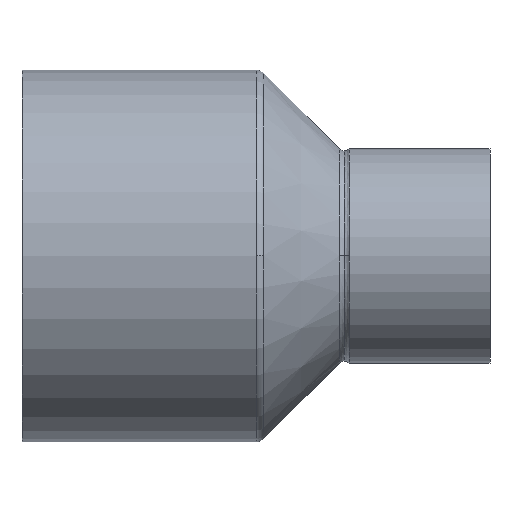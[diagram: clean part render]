
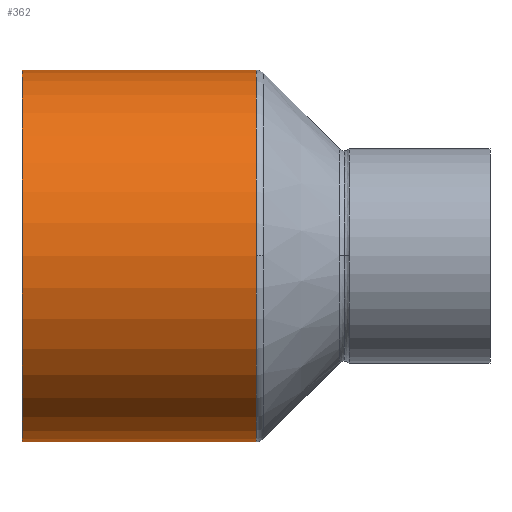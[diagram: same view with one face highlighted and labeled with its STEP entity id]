
A CAD part, top view. The second image highlights one B-rep face of the part: STEP entity #362.
In plain terms, the highlighted cylindrical face has radius 27 mm (diameter 54 mm), a partial arc.
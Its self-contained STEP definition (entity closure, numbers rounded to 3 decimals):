
#312=CARTESIAN_POINT('',(17.021,0.0,0.0));
#313=DIRECTION('',(1.0,0.0,0.0));
#314=DIRECTION('',(0.0,1.0,0.0));
#315=AXIS2_PLACEMENT_3D('',#312,#313,#314);
#316=CYLINDRICAL_SURFACE('',#315,27.0);
#317=CARTESIAN_POINT('',(0.,27.0,0.0));
#318=VERTEX_POINT('',#317);
#319=CARTESIAN_POINT('',(34.042,27.0,0.0));
#320=VERTEX_POINT('',#319);
#321=CARTESIAN_POINT('',(0.,27.0,0.0));
#322=DIRECTION('',(1.0,0.0,0.0));
#323=VECTOR('',#322,34.042);
#324=LINE('',#321,#323);
#325=EDGE_CURVE('',#318,#320,#324,.T.);
#326=ORIENTED_EDGE('',*,*,#325,.F.);
#327=CARTESIAN_POINT('',(0.,-27.0,0.));
#328=VERTEX_POINT('',#327);
#329=CARTESIAN_POINT('',(0.,0.0,0.0));
#330=DIRECTION('',(1.0,0.0,0.0));
#331=DIRECTION('',(0.0,1.0,0.0));
#332=AXIS2_PLACEMENT_3D('',#329,#330,#331);
#333=CIRCLE('',#332,27.0);
#334=EDGE_CURVE('',#318,#328,#333,.T.);
#335=ORIENTED_EDGE('',*,*,#334,.T.);
#336=CARTESIAN_POINT('',(34.042,-27.0,0.));
#337=VERTEX_POINT('',#336);
#338=CARTESIAN_POINT('',(34.042,-27.0,0.));
#339=DIRECTION('',(-1.0,0.0,0.0));
#340=VECTOR('',#339,34.042);
#341=LINE('',#338,#340);
#342=EDGE_CURVE('',#337,#328,#341,.T.);
#343=ORIENTED_EDGE('',*,*,#342,.F.);
#344=CARTESIAN_POINT('',(34.042,0.,27.0));
#345=VERTEX_POINT('',#344);
#346=CARTESIAN_POINT('',(34.042,0.0,0.0));
#347=DIRECTION('',(1.0,0.0,0.0));
#348=DIRECTION('',(0.0,1.0,0.0));
#349=AXIS2_PLACEMENT_3D('',#346,#347,#348);
#350=CIRCLE('',#349,27.0);
#351=EDGE_CURVE('',#345,#337,#350,.T.);
#352=ORIENTED_EDGE('',*,*,#351,.F.);
#353=CARTESIAN_POINT('',(34.042,0.0,0.0));
#354=DIRECTION('',(1.0,0.0,0.0));
#355=DIRECTION('',(0.0,1.0,0.0));
#356=AXIS2_PLACEMENT_3D('',#353,#354,#355);
#357=CIRCLE('',#356,27.0);
#358=EDGE_CURVE('',#320,#345,#357,.T.);
#359=ORIENTED_EDGE('',*,*,#358,.F.);
#360=EDGE_LOOP('',(#326,#335,#343,#352,#359));
#361=FACE_OUTER_BOUND('',#360,.T.);
#362=ADVANCED_FACE('',(#361),#316,.T.);
